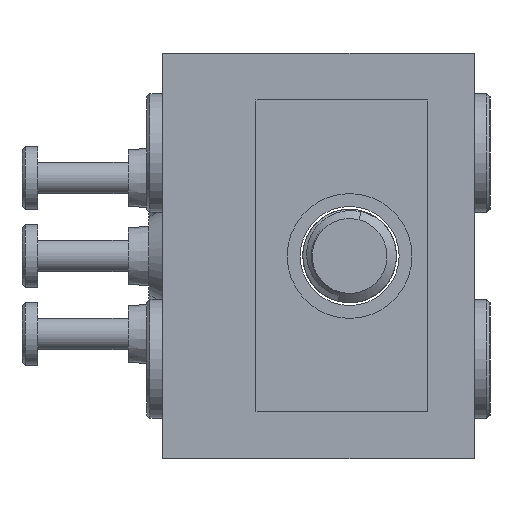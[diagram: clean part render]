
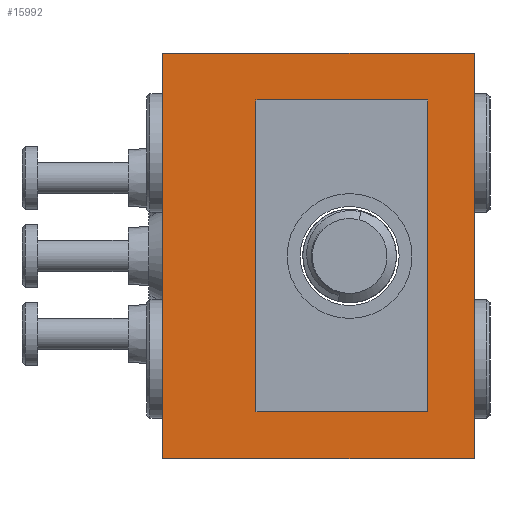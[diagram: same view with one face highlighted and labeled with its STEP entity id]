
A CAD part, left-side view. The second image highlights one B-rep face of the part: STEP entity #15992.
In plain terms, the highlighted planar face has unit normal (-1, 0, 0).
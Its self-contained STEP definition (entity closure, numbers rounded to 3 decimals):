
#226 = EDGE_CURVE ( 'NONE', #3254, #8372, #12856, .T. ) ;
#305 = CARTESIAN_POINT ( 'NONE',  ( -19., 5., 6.5 ) ) ;
#434 = DIRECTION ( 'NONE',  ( 0., 0., 1. ) ) ;
#624 = CARTESIAN_POINT ( 'NONE',  ( -19., 2., 5. ) ) ;
#715 = VERTEX_POINT ( 'NONE', #1076 ) ;
#812 = CARTESIAN_POINT ( 'NONE',  ( -19., 5., 6.5 ) ) ;
#1076 = CARTESIAN_POINT ( 'NONE',  ( -19., 2., -5. ) ) ;
#1179 = ORIENTED_EDGE ( 'NONE', *, *, #10257, .F. ) ;
#1455 = VERTEX_POINT ( 'NONE', #18561 ) ;
#1713 = VECTOR ( 'NONE', #13491, 1000. ) ;
#1849 = ORIENTED_EDGE ( 'NONE', *, *, #13563, .F. ) ;
#1859 = CARTESIAN_POINT ( 'NONE',  ( -19., 2., -5. ) ) ;
#1993 = LINE ( 'NONE', #11887, #9280 ) ;
#2234 = CARTESIAN_POINT ( 'NONE',  ( -19., 5., -6.5 ) ) ;
#2343 = EDGE_CURVE ( 'NONE', #17737, #8372, #14862, .T. ) ;
#2389 = DIRECTION ( 'NONE',  ( 0., -1., 0. ) ) ;
#2770 = DIRECTION ( 'NONE',  ( 0., 0., -1. ) ) ;
#2809 = FACE_BOUND ( 'NONE', #3503, .T. ) ;
#3254 = VERTEX_POINT ( 'NONE', #8598 ) ;
#3365 = AXIS2_PLACEMENT_3D ( 'NONE', #305, #4697, #14859 ) ;
#3405 = VECTOR ( 'NONE', #10865, 1000. ) ;
#3503 = EDGE_LOOP ( 'NONE', ( #14358, #1849, #7783, #6201 ) ) ;
#3547 = EDGE_CURVE ( 'NONE', #15806, #3254, #15285, .T. ) ;
#3928 = CARTESIAN_POINT ( 'NONE',  ( -19., 2., -5. ) ) ;
#4197 = CARTESIAN_POINT ( 'NONE',  ( -19., -5., -6.5 ) ) ;
#4644 = EDGE_LOOP ( 'NONE', ( #18546, #14147, #1179, #13227 ) ) ;
#4697 = DIRECTION ( 'NONE',  ( 1., 0., 0. ) ) ;
#5255 = VECTOR ( 'NONE', #17195, 1000. ) ;
#6201 = ORIENTED_EDGE ( 'NONE', *, *, #8813, .F. ) ;
#6336 = VERTEX_POINT ( 'NONE', #13708 ) ;
#6508 = EDGE_CURVE ( 'NONE', #8706, #715, #18133, .T. ) ;
#7009 = EDGE_CURVE ( 'NONE', #1455, #6336, #1993, .T. ) ;
#7566 = PLANE ( 'NONE',  #3365 ) ;
#7783 = ORIENTED_EDGE ( 'NONE', *, *, #6508, .F. ) ;
#8372 = VERTEX_POINT ( 'NONE', #4197 ) ;
#8522 = CARTESIAN_POINT ( 'NONE',  ( -19., 2., 5. ) ) ;
#8598 = CARTESIAN_POINT ( 'NONE',  ( -19., 5., -6.5 ) ) ;
#8706 = VERTEX_POINT ( 'NONE', #624 ) ;
#8813 = EDGE_CURVE ( 'NONE', #6336, #8706, #16364, .T. ) ;
#8997 = VECTOR ( 'NONE', #2389, 1000. ) ;
#9280 = VECTOR ( 'NONE', #434, 1000. ) ;
#10257 = EDGE_CURVE ( 'NONE', #15806, #17737, #18378, .T. ) ;
#10555 = VECTOR ( 'NONE', #16928, 1000. ) ;
#10865 = DIRECTION ( 'NONE',  ( 0., -1., 0. ) ) ;
#10878 = CARTESIAN_POINT ( 'NONE',  ( -19., -5., 6.5 ) ) ;
#11887 = CARTESIAN_POINT ( 'NONE',  ( -19., -3.5, -5. ) ) ;
#12856 = LINE ( 'NONE', #2234, #8997 ) ;
#13227 = ORIENTED_EDGE ( 'NONE', *, *, #3547, .T. ) ;
#13491 = DIRECTION ( 'NONE',  ( 0., -1., 0. ) ) ;
#13563 = EDGE_CURVE ( 'NONE', #715, #1455, #16719, .T. ) ;
#13708 = CARTESIAN_POINT ( 'NONE',  ( -19., -3.5, 5. ) ) ;
#14147 = ORIENTED_EDGE ( 'NONE', *, *, #2343, .F. ) ;
#14287 = VECTOR ( 'NONE', #2770, 1000. ) ;
#14358 = ORIENTED_EDGE ( 'NONE', *, *, #7009, .F. ) ;
#14859 = DIRECTION ( 'NONE',  ( 0., 0., -1. ) ) ;
#14862 = LINE ( 'NONE', #15481, #10555 ) ;
#15285 = LINE ( 'NONE', #812, #18670 ) ;
#15305 = DIRECTION ( 'NONE',  ( 0., 0., -1. ) ) ;
#15481 = CARTESIAN_POINT ( 'NONE',  ( -19., -5., 6.5 ) ) ;
#15806 = VERTEX_POINT ( 'NONE', #17318 ) ;
#15992 = ADVANCED_FACE ( 'NONE', ( #2809, #17781 ), #7566, .F. ) ;
#16364 = LINE ( 'NONE', #8522, #5255 ) ;
#16719 = LINE ( 'NONE', #1859, #1713 ) ;
#16928 = DIRECTION ( 'NONE',  ( 0., 0., -1. ) ) ;
#17195 = DIRECTION ( 'NONE',  ( 0., 1., 0. ) ) ;
#17318 = CARTESIAN_POINT ( 'NONE',  ( -19., 5., 6.5 ) ) ;
#17737 = VERTEX_POINT ( 'NONE', #10878 ) ;
#17781 = FACE_OUTER_BOUND ( 'NONE', #4644, .T. ) ;
#18074 = CARTESIAN_POINT ( 'NONE',  ( -19., 5., 6.5 ) ) ;
#18133 = LINE ( 'NONE', #3928, #14287 ) ;
#18378 = LINE ( 'NONE', #18074, #3405 ) ;
#18546 = ORIENTED_EDGE ( 'NONE', *, *, #226, .T. ) ;
#18561 = CARTESIAN_POINT ( 'NONE',  ( -19., -3.5, -5. ) ) ;
#18670 = VECTOR ( 'NONE', #15305, 1000. ) ;
